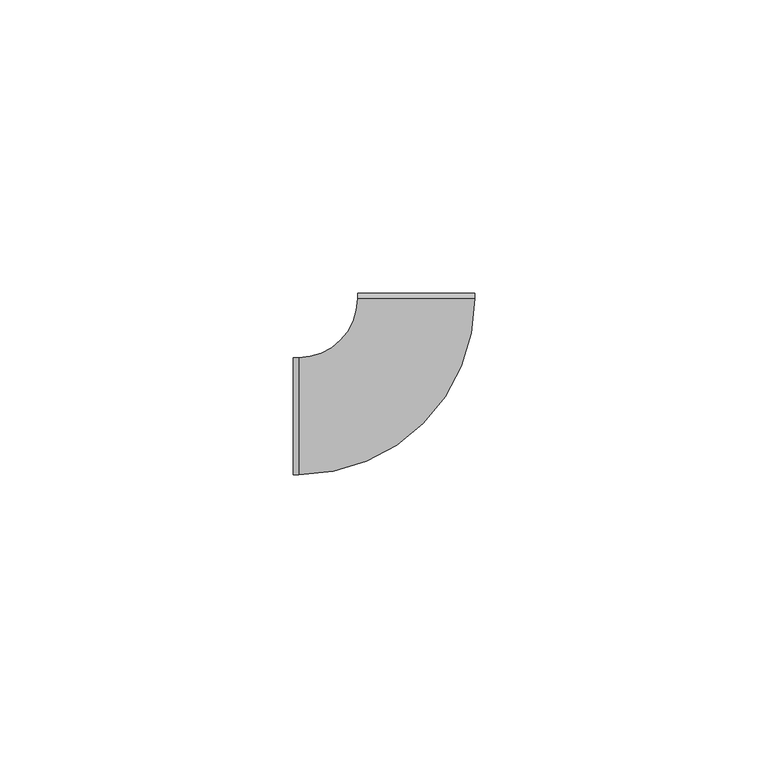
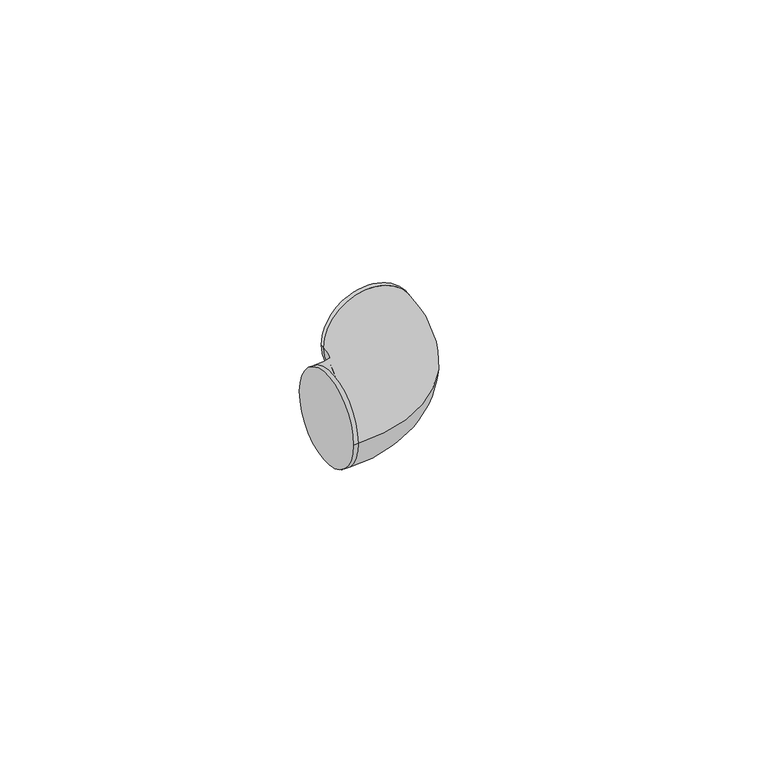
"""IFC4 building model written with IfcOpenShell, lengths in millimetres: cable carrier fitting geometry, ADSK_Поворот_Минимальный размер : Неспецифицируемый."""

from ifc_helpers import new_model, si_unit, point, frame, origin, place, context, project, spatial, circle_curve, ellipse_curve, trimmed, source, transform, mapped, element, save
from ifc_brep_helpers import plane_surface, cylinder_surface, revolved_surface, advanced_brep


def cable_carrier_fitting_b9f2e8c6(model_context):
    return source(origin(), model_context, "Body", "AdvancedBrep", [
        advanced_brep(
        [(-21.0000019, -10.0, 0.0), (-21.0000019, 10.0, 0.0), (-20.0000019, -10.0, 0.0), (-20.0000019, 10.0, 0.0), (-10.0000019, 20.0000009, 0.0), (9.9999981, 20.0000028, 0.0), (9.9999981, 21.0000028, 0.0), (-10.0000019, 21.0000009, 0.0)],
        [
            (0, 1, circle_curve(frame((-21.0000019, 0.0, 0.0), z_axis=(-1.0, -4.92260399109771e-12, 0.0), x_axis=(-4.92260399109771e-12, 1.0, 0.0)), 10.0)),
            (1, 0, circle_curve(frame((-21.0000019, 0.0, 0.0), z_axis=(-1.0, -4.92260399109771e-12, 0.0), x_axis=(-4.92260399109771e-12, 1.0, 0.0)), 10.0)),
            (0, 2),
            (2, 3, circle_curve(frame((-20.0000019, 0.0, 0.0), z_axis=(-1.0, -4.92260399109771e-12, 0.0), x_axis=(-4.92260399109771e-12, 1.0, 0.0)), 10.0)),
            (3, 1),
            (3, 2, circle_curve(frame((-20.0000019, 0.0, 0.0), z_axis=(-1.0, -4.92260399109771e-12, 0.0), x_axis=(-4.92260399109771e-12, 1.0, 0.0)), 10.0)),
            (4, 3, circle_curve(frame((-20.0000019, 20.0, 0.0), z_axis=(0.0, 0.0, -1.0), x_axis=(0.0, -1.0, 0.0)), 10.0)),
            (2, 5, circle_curve(frame((-20.0000019, 20.0, 0.0), z_axis=(0.0, 0.0, 1.0), x_axis=(0.0, -1.0, 0.0)), 30.0)),
            (5, 4, circle_curve(frame((-1.9e-06, 20.0000019, 0.0), z_axis=(9.254156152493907e-08, -0.9999999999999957, 0.0), x_axis=(-0.9999999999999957, -9.254156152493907e-08, 0.0)), 10.0)),
            (4, 5, circle_curve(frame((-1.9e-06, 20.0000019, 0.0), z_axis=(9.254156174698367e-08, -0.9999999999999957, 0.0), x_axis=(-0.9999999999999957, -9.254156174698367e-08, 0.0)), 10.0)),
            (6, 7, circle_curve(frame((-1.9e-06, 21.0000019, 0.0), z_axis=(-9.254156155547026e-08, 0.9999999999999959, 0.0), x_axis=(-0.9999999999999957, -9.254156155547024e-08, 0.0)), 10.0)),
            (7, 6, circle_curve(frame((-1.9e-06, 21.0000019, 0.0), z_axis=(-9.254156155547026e-08, 0.9999999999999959, 0.0), x_axis=(-0.9999999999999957, -9.254156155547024e-08, 0.0)), 10.0)),
            (5, 6),
            (7, 4),
        ],
        [
            plane_surface(frame((-21.0000019, 0.0, 0.0), z_axis=(-1.0, -4.92260399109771e-12, 0.0), x_axis=(0.0, 0.0, 1.0))),
            cylinder_surface(frame((-21.0000019, 0.0, 0.0), z_axis=(-1.0, -4.92260399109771e-12, 0.0), x_axis=(-4.92260399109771e-12, 1.0, 0.0)), 10.0),
            revolved_surface(trimmed(ellipse_curve(frame((-20.0000019, 0.0, 0.0), z_axis=(-1.0, 0.0, 0.0), x_axis=(0.0, 1.0, 0.0)), 10.0, 10.0), [point((-20.0000019, -10.0, 0.0))], [point((-20.0000019, 10.0, 0.0))], True, "CARTESIAN"), (-20.0000019, 20.0, 0.0), (0.0, 0.0, 1.0)),
            revolved_surface(trimmed(ellipse_curve(frame((-20.0000019, 0.0, 0.0), z_axis=(-1.0, 0.0, 0.0), x_axis=(0.0, 1.0, 0.0)), 10.0, 10.0), [point((-20.0000019, 10.0, 0.0))], [point((-20.0000019, -10.0, 0.0))], True, "CARTESIAN"), (-20.0000019, 20.0, 0.0), (0.0, 0.0, 1.0)),
            plane_surface(frame((-1.9e-06, 21.0000019, 0.0), z_axis=(-9.254156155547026e-08, 0.9999999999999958, 0.0), x_axis=(0.0, 0.0, 1.0))),
            cylinder_surface(frame((-1.9e-06, 20.0000019, 0.0), z_axis=(9.254156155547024e-08, -0.9999999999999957, 0.0), x_axis=(-0.9999999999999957, -9.254156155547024e-08, 0.0)), 10.0),
        ],
        [
            (0, [[1, 2]]),
            (1, [[-1, 3, 4, 5]]),
            (1, [[-2, -5, 6, -3]]),
            (2, [[7, -4, 8, 9]]),
            (3, [[-8, -6, -7, 10]]),
            (4, [[11, 12]]),
            (5, [[-9, 13, -12, 14]]),
            (5, [[-10, -14, -11, -13]]),
        ],
    ),
    ])


if __name__ == "__main__":
    model = new_model("IFC4")
    model_context = context("Model", 3, world=origin())
    ifc_project = project(units=[si_unit("LENGTHUNIT", "METRE", prefix="MILLI")], contexts=[model_context])
    site = spatial("IfcSite", under=ifc_project)
    building = spatial("IfcBuilding", under=site)
    placement = place(None, origin())
    cable_carrier_fitting_shape = cable_carrier_fitting_b9f2e8c6(model_context)
    element("IfcCableCarrierFitting", 1, ObjectType="ADSK_Поворот_Минимальный размер : Неспецифицируемый", at=placement, inside=building, context=model_context, shape_type="MappedRepresentation", body=[
        mapped(cable_carrier_fitting_shape, transform((0.0, 0.0, 0.0), x_axis=(1.0, 0.0, 0.0), y_axis=(0.0, 1.0, 0.0), z_axis=(0.0, 0.0, 1.0))),
    ])
    save(model, "model.ifc")
